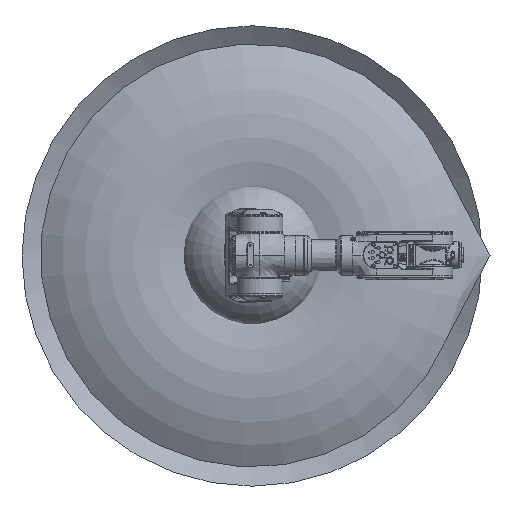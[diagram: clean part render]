
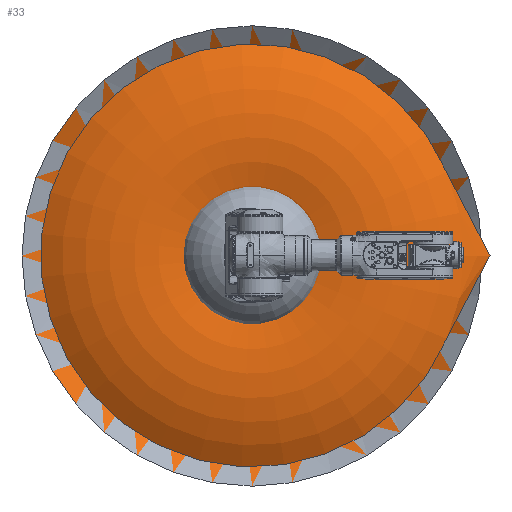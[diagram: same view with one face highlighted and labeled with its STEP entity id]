
A CAD part, top view. The second image highlights one B-rep face of the part: STEP entity #33.
In plain terms, the highlighted toroidal (fillet/blend) face has major radius 306.037 mm and minor radius 445.706 mm.
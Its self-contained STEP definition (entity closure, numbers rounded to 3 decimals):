
#33 = ADVANCED_FACE ( 'NONE', ( #39981 ), #152396, .T. ) ;
#299 = EDGE_CURVE ( 'NONE', #225343, #225343, #175675, .T. ) ;
#13462 = ORIENTED_EDGE ( 'NONE', *, *, #299, .T. ) ;
#39981 = FACE_OUTER_BOUND ( 'NONE', #183573, .T. ) ;
#44746 = CARTESIAN_POINT ( 'NONE',  ( 0., -287.318, 0. ) ) ;
#48927 = AXIS2_PLACEMENT_3D ( 'NONE', #223488, #187553, #60373 ) ;
#60373 = DIRECTION ( 'NONE',  ( 0., 0., -1. ) ) ;
#98733 = DIRECTION ( 'NONE',  ( 0., -1., 0. ) ) ;
#152396 = TOROIDAL_SURFACE ( 'NONE', #48927, 306.037, 445.706 ) ;
#158655 = DIRECTION ( 'NONE',  ( 0., 0., -1. ) ) ;
#175675 = CIRCLE ( 'NONE', #236886, 592.531 ) ;
#183573 = EDGE_LOOP ( 'NONE', ( #13462 ) ) ;
#187553 = DIRECTION ( 'NONE',  ( 0., -1., 0. ) ) ;
#209750 = CARTESIAN_POINT ( 'NONE',  ( 0., -287.318, -592.531 ) ) ;
#223488 = CARTESIAN_POINT ( 'NONE',  ( 0., 54.113, 0. ) ) ;
#225343 = VERTEX_POINT ( 'NONE', #209750 ) ;
#236886 = AXIS2_PLACEMENT_3D ( 'NONE', #44746, #98733, #158655 ) ;
